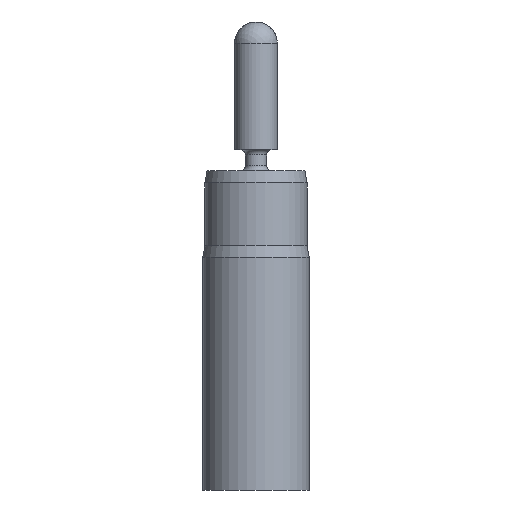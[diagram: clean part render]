
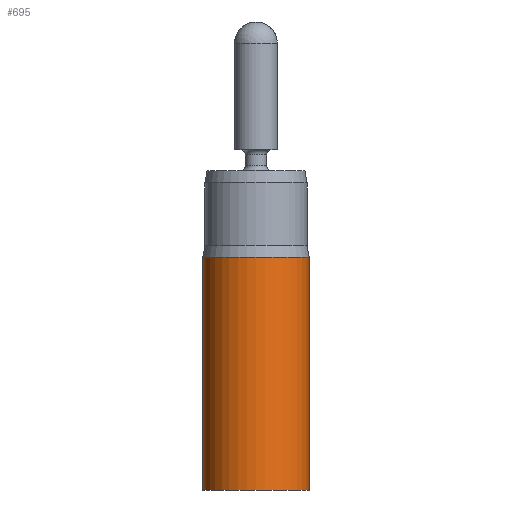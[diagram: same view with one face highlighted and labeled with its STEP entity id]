
A CAD part, front view. The second image highlights one B-rep face of the part: STEP entity #695.
In plain terms, the highlighted cylindrical face has radius 2.5 mm (diameter 5 mm), a full revolution.
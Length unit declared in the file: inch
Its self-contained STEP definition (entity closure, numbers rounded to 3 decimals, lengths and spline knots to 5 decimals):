
#668=CARTESIAN_POINT('',(-0.31452,2.86153,-0.47261));
#669=DIRECTION('',(0.0,0.0,-1.0));
#670=DIRECTION('',(0.0,-1.0,0.0));
#671=AXIS2_PLACEMENT_3D('',#668,#669,#670);
#672=CYLINDRICAL_SURFACE('',#671,0.09843);
#673=CARTESIAN_POINT('',(-0.31452,2.95996,-0.25739));
#674=VERTEX_POINT('',#673);
#675=CARTESIAN_POINT('',(-0.31452,2.86153,-0.25739));
#676=DIRECTION('',(0.0,0.0,-1.0));
#677=DIRECTION('',(0.0,-1.0,0.0));
#678=AXIS2_PLACEMENT_3D('',#675,#676,#677);
#679=CIRCLE('',#678,0.09843);
#680=EDGE_CURVE('',#674,#674,#679,.T.);
#681=ORIENTED_EDGE('',*,*,#680,.T.);
#682=EDGE_LOOP('',(#681));
#683=FACE_OUTER_BOUND('',#682,.T.);
#684=CARTESIAN_POINT('',(-0.31452,2.95996,-0.68782));
#685=VERTEX_POINT('',#684);
#686=CARTESIAN_POINT('',(-0.31452,2.86153,-0.68782));
#687=DIRECTION('',(0.0,0.0,-1.0));
#688=DIRECTION('',(0.0,-1.0,0.0));
#689=AXIS2_PLACEMENT_3D('',#686,#687,#688);
#690=CIRCLE('',#689,0.09843);
#691=EDGE_CURVE('',#685,#685,#690,.T.);
#692=ORIENTED_EDGE('',*,*,#691,.F.);
#693=EDGE_LOOP('',(#692));
#694=FACE_BOUND('',#693,.T.);
#695=ADVANCED_FACE('',(#683,#694),#672,.T.);
